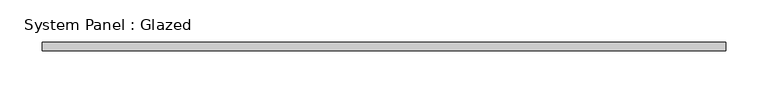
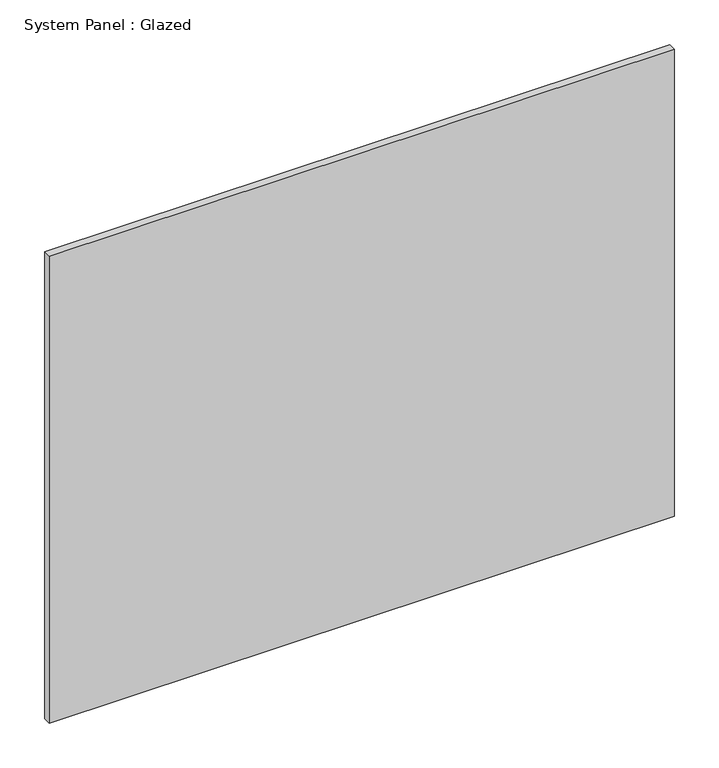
"""IFC4 building model written with IfcOpenShell, lengths in millimetres: plate geometry, System Panel : Glazed."""

from ifc_helpers import new_model, si_unit, origin, origin_with_axes, place, context, project, spatial, polyline, outline, extrude, source, transform, mapped, element, save


def system_panel_glazed_88139816(model_context):
    return source(origin(), model_context, "Body", "SweptSolid", [
        extrude(outline(polyline([(405.0001571, -5.0), (-405.0001571, -5.0), (-405.0001571, 5.0), (405.0001571, 5.0), (405.0001571, -5.0)])), origin_with_axes(), (0.0, 0.0, 1.0), 640.0),
    ])


if __name__ == "__main__":
    model = new_model("IFC4")
    model_context = context("Model", 3, world=origin())
    ifc_project = project(units=[si_unit("LENGTHUNIT", "METRE", prefix="MILLI")], contexts=[model_context])
    site = spatial("IfcSite", under=ifc_project)
    building = spatial("IfcBuilding", under=site)
    placement = place(None, origin())
    system_panel_glazed_shape = system_panel_glazed_88139816(model_context)
    element("IfcPlate", 1, ObjectType="System Panel : Glazed", at=placement, inside=building, context=model_context, shape_type="MappedRepresentation", body=[
        mapped(system_panel_glazed_shape, transform((0.0, 0.0, 0.0), x_axis=(1.0, 0.0, 0.0), y_axis=(0.0, 1.0, 0.0), z_axis=(0.0, 0.0, 1.0))),
    ])
    save(model, "model.ifc")
